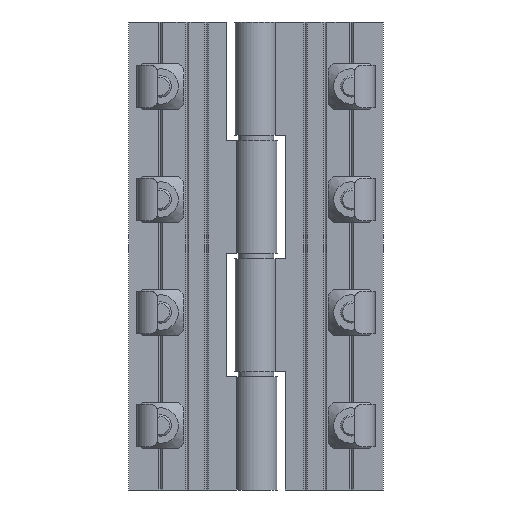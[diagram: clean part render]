
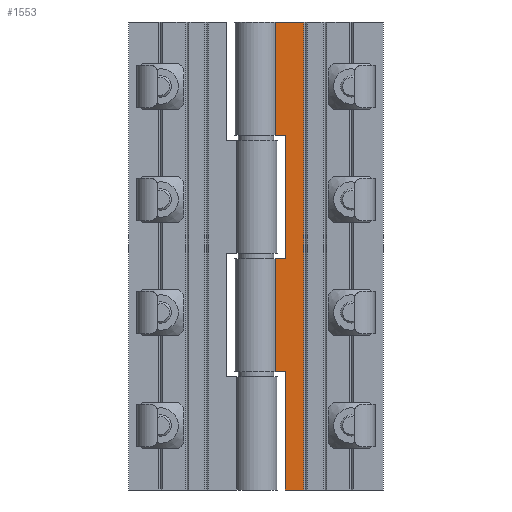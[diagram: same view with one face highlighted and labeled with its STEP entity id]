
A CAD part, front view. The second image highlights one B-rep face of the part: STEP entity #1553.
In plain terms, the highlighted planar face has unit normal (0, -1, 0).
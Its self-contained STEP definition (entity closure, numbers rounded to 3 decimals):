
#987=CARTESIAN_POINT('',(8.3,-2.5,0.0));
#988=VERTEX_POINT('',#987);
#995=CARTESIAN_POINT('',(8.3,-2.5,33.5));
#996=VERTEX_POINT('',#995);
#997=CARTESIAN_POINT('',(8.3,-2.5,33.5));
#998=DIRECTION('',(0.0,0.0,-1.0));
#999=VECTOR('',#998,33.5);
#1000=LINE('',#997,#999);
#1001=EDGE_CURVE('',#996,#988,#1000,.T.);
#1019=CARTESIAN_POINT('',(5.454,-2.5,33.5));
#1020=VERTEX_POINT('',#1019);
#1021=CARTESIAN_POINT('',(5.454,-2.5,33.5));
#1022=DIRECTION('',(1.0,0.0,0.0));
#1023=VECTOR('',#1022,2.846);
#1024=LINE('',#1021,#1023);
#1025=EDGE_CURVE('',#1020,#996,#1024,.T.);
#1054=CARTESIAN_POINT('',(8.3,-2.5,65.5));
#1055=VERTEX_POINT('',#1054);
#1062=CARTESIAN_POINT('',(8.3,-2.5,100.5));
#1063=VERTEX_POINT('',#1062);
#1064=CARTESIAN_POINT('',(8.3,-2.5,100.5));
#1065=DIRECTION('',(0.0,0.0,-1.0));
#1066=VECTOR('',#1065,35.0);
#1067=LINE('',#1064,#1066);
#1068=EDGE_CURVE('',#1063,#1055,#1067,.T.);
#1086=CARTESIAN_POINT('',(5.454,-2.5,100.5));
#1087=VERTEX_POINT('',#1086);
#1088=CARTESIAN_POINT('',(5.454,-2.5,100.5));
#1089=DIRECTION('',(1.0,0.0,0.0));
#1090=VECTOR('',#1089,2.846);
#1091=LINE('',#1088,#1090);
#1092=EDGE_CURVE('',#1087,#1063,#1091,.T.);
#1121=CARTESIAN_POINT('',(5.454,-2.5,65.5));
#1122=VERTEX_POINT('',#1121);
#1130=CARTESIAN_POINT('',(8.3,-2.5,65.5));
#1131=DIRECTION('',(-1.0,0.0,0.0));
#1132=VECTOR('',#1131,2.846);
#1133=LINE('',#1130,#1132);
#1134=EDGE_CURVE('',#1055,#1122,#1133,.T.);
#1157=CARTESIAN_POINT('',(5.454,-2.5,132.5));
#1158=VERTEX_POINT('',#1157);
#1159=CARTESIAN_POINT('',(5.454,-2.5,100.5));
#1160=DIRECTION('',(0.0,0.0,1.0));
#1161=VECTOR('',#1160,32.0);
#1162=LINE('',#1159,#1161);
#1163=EDGE_CURVE('',#1087,#1158,#1162,.T.);
#1182=CARTESIAN_POINT('',(5.454,-2.5,33.5));
#1183=DIRECTION('',(0.0,0.0,1.0));
#1184=VECTOR('',#1183,32.);
#1185=LINE('',#1182,#1184);
#1186=EDGE_CURVE('',#1020,#1122,#1185,.T.);
#1500=CARTESIAN_POINT('',(13.5,-2.5,132.5));
#1501=VERTEX_POINT('',#1500);
#1508=CARTESIAN_POINT('',(13.5,-2.5,0.0));
#1509=VERTEX_POINT('',#1508);
#1510=CARTESIAN_POINT('',(13.5,-2.5,0.0));
#1511=DIRECTION('',(0.0,0.0,1.0));
#1512=VECTOR('',#1511,132.5);
#1513=LINE('',#1510,#1512);
#1514=EDGE_CURVE('',#1509,#1501,#1513,.T.);
#1526=CARTESIAN_POINT('',(13.5,-2.5,0.0));
#1527=DIRECTION('',(0.0,-1.0,0.0));
#1528=DIRECTION('',(0.0,0.0,-1.0));
#1529=AXIS2_PLACEMENT_3D('',#1526,#1527,#1528);
#1530=PLANE('',#1529);
#1531=ORIENTED_EDGE('',*,*,#1001,.T.);
#1532=CARTESIAN_POINT('',(8.3,-2.5,0.0));
#1533=DIRECTION('',(1.0,0.0,0.0));
#1534=VECTOR('',#1533,5.2);
#1535=LINE('',#1532,#1534);
#1536=EDGE_CURVE('',#988,#1509,#1535,.T.);
#1537=ORIENTED_EDGE('',*,*,#1536,.T.);
#1538=ORIENTED_EDGE('',*,*,#1514,.T.);
#1539=CARTESIAN_POINT('',(13.5,-2.5,132.5));
#1540=DIRECTION('',(-1.0,0.0,0.0));
#1541=VECTOR('',#1540,8.046);
#1542=LINE('',#1539,#1541);
#1543=EDGE_CURVE('',#1501,#1158,#1542,.T.);
#1544=ORIENTED_EDGE('',*,*,#1543,.T.);
#1545=ORIENTED_EDGE('',*,*,#1163,.F.);
#1546=ORIENTED_EDGE('',*,*,#1092,.T.);
#1547=ORIENTED_EDGE('',*,*,#1068,.T.);
#1548=ORIENTED_EDGE('',*,*,#1134,.T.);
#1549=ORIENTED_EDGE('',*,*,#1186,.F.);
#1550=ORIENTED_EDGE('',*,*,#1025,.T.);
#1551=EDGE_LOOP('',(#1531,#1537,#1538,#1544,#1545,#1546,#1547,#1548,#1549,#1550));
#1552=FACE_OUTER_BOUND('',#1551,.T.);
#1553=ADVANCED_FACE('',(#1552),#1530,.T.);
